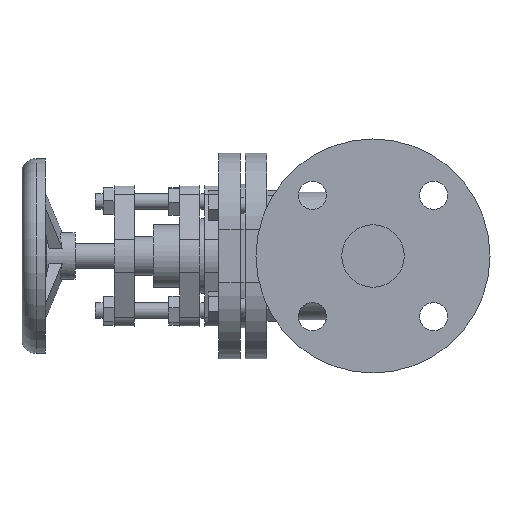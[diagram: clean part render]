
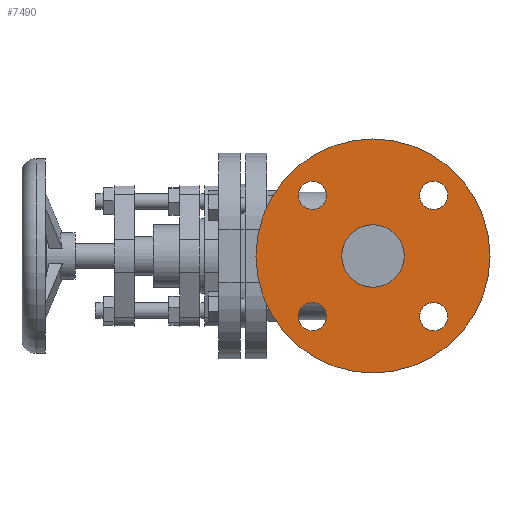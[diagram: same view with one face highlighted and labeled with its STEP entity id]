
A CAD part, left-side view. The second image highlights one B-rep face of the part: STEP entity #7490.
In plain terms, the highlighted planar face has unit normal (-1, 0, 0).
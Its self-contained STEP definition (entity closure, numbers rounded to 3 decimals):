
#268=FACE_BOUND('',#1397,.T.);
#269=FACE_BOUND('',#1398,.T.);
#270=FACE_BOUND('',#1399,.T.);
#271=FACE_BOUND('',#1400,.T.);
#272=FACE_BOUND('',#1401,.T.);
#556=PLANE('',#8000);
#939=FACE_OUTER_BOUND('',#1396,.T.);
#1396=EDGE_LOOP('',(#6572));
#1397=EDGE_LOOP('',(#6573));
#1398=EDGE_LOOP('',(#6574));
#1399=EDGE_LOOP('',(#6575));
#1400=EDGE_LOOP('',(#6576));
#1401=EDGE_LOOP('',(#6577));
#2847=CIRCLE('',#7531,9.);
#2849=CIRCLE('',#7534,9.);
#2981=CIRCLE('',#7992,9.);
#2983=CIRCLE('',#7995,9.);
#2984=CIRCLE('',#7997,20.);
#2986=CIRCLE('',#8001,75.);
#2998=VERTEX_POINT('',#9731);
#3000=VERTEX_POINT('',#9737);
#3643=VERTEX_POINT('',#12798);
#3645=VERTEX_POINT('',#12804);
#3646=VERTEX_POINT('',#12808);
#3648=VERTEX_POINT('',#12815);
#3667=EDGE_CURVE('',#2998,#2998,#2847,.T.);
#3670=EDGE_CURVE('',#3000,#3000,#2849,.T.);
#4634=EDGE_CURVE('',#3643,#3643,#2981,.T.);
#4637=EDGE_CURVE('',#3645,#3645,#2983,.T.);
#4638=EDGE_CURVE('',#3646,#3646,#2984,.T.);
#4641=EDGE_CURVE('',#3648,#3648,#2986,.T.);
#6572=ORIENTED_EDGE('',*,*,#4641,.F.);
#6573=ORIENTED_EDGE('',*,*,#4637,.F.);
#6574=ORIENTED_EDGE('',*,*,#4634,.F.);
#6575=ORIENTED_EDGE('',*,*,#3667,.F.);
#6576=ORIENTED_EDGE('',*,*,#3670,.F.);
#6577=ORIENTED_EDGE('',*,*,#4638,.T.);
#7490=ADVANCED_FACE('',(#939,#268,#269,#270,#271,#272),#556,.T.);
#7531=AXIS2_PLACEMENT_3D('',#9733,#8038,#8039);
#7534=AXIS2_PLACEMENT_3D('',#9739,#8045,#8046);
#7992=AXIS2_PLACEMENT_3D('',#12800,#9653,#9654);
#7995=AXIS2_PLACEMENT_3D('',#12806,#9660,#9661);
#7997=AXIS2_PLACEMENT_3D('',#12809,#9664,#9665);
#8000=AXIS2_PLACEMENT_3D('',#12814,#9671,#9672);
#8001=AXIS2_PLACEMENT_3D('',#12816,#9673,#9674);
#8038=DIRECTION('center_axis',(-1.,0.,0.));
#8039=DIRECTION('ref_axis',(0.,-0.94,-0.341));
#8045=DIRECTION('center_axis',(-1.,0.,0.));
#8046=DIRECTION('ref_axis',(0.,0.94,-0.341));
#9653=DIRECTION('center_axis',(-1.,0.,0.));
#9654=DIRECTION('ref_axis',(0.,-0.341,0.94));
#9660=DIRECTION('center_axis',(-1.,0.,0.));
#9661=DIRECTION('ref_axis',(0.,0.94,0.341));
#9664=DIRECTION('center_axis',(1.,0.,0.));
#9665=DIRECTION('ref_axis',(0.,0.,-1.));
#9671=DIRECTION('center_axis',(-1.,0.,0.));
#9672=DIRECTION('ref_axis',(0.,0.,1.));
#9673=DIRECTION('center_axis',(1.,0.,0.));
#9674=DIRECTION('ref_axis',(0.,0.,1.));
#9731=CARTESIAN_POINT('',(-79.725,-94.528,-29.891));
#9733=CARTESIAN_POINT('Origin',(-79.725,-94.528,-38.891));
#9737=CARTESIAN_POINT('',(-79.725,-16.746,-29.891));
#9739=CARTESIAN_POINT('Origin',(-79.725,-16.746,-38.891));
#12798=CARTESIAN_POINT('',(-79.725,-94.528,47.891));
#12800=CARTESIAN_POINT('Origin',(-79.725,-94.528,38.891));
#12804=CARTESIAN_POINT('',(-79.725,-16.746,47.891));
#12806=CARTESIAN_POINT('Origin',(-79.725,-16.746,38.891));
#12808=CARTESIAN_POINT('',(-79.725,-55.637,20.));
#12809=CARTESIAN_POINT('Origin',(-79.725,-55.637,0.));
#12814=CARTESIAN_POINT('Origin',(-79.725,-33.637,0.));
#12815=CARTESIAN_POINT('',(-79.725,-130.637,0.));
#12816=CARTESIAN_POINT('Origin',(-79.725,-55.637,0.));
